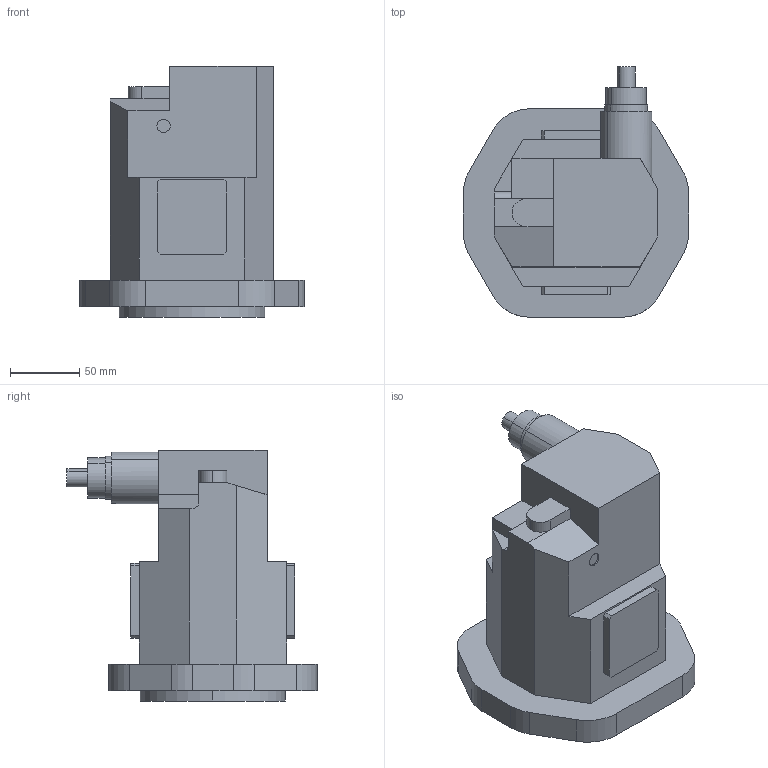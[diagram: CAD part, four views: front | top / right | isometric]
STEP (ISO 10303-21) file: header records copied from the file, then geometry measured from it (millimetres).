
FILE_DESCRIPTION (( 'STEP AP214' ), '1' );
FILE_NAME ('beng.STEP', '2023-04-18T02:30:36', ( '' ), ( '' ), 'SwSTEP 2.0', 'SolidWorks 2016', '' );
FILE_SCHEMA (( 'AUTOMOTIVE_DESIGN' ));
Length unit declared in the file: millimetre
Products named in the file (1): beng
Bounding box: 162 x 180 x 181.1 mm (x, y, z)
Volume: 1965628.9 mm3; surface area: 119578.1 mm2
Topology: 1 solids, 2 shells, 96 faces, 241 edges, 157 vertices
Faces by surface type: plane 60, cylinder 31, cone 3, torus 2
Entity records: 3582 total; most frequent: CARTESIAN_POINT 555, DIRECTION 493, ORIENTED_EDGE 478, EDGE_CURVE 239, LINE 167, VECTOR 167, AXIS2_PLACEMENT_3D 163, VERTEX_POINT 157
